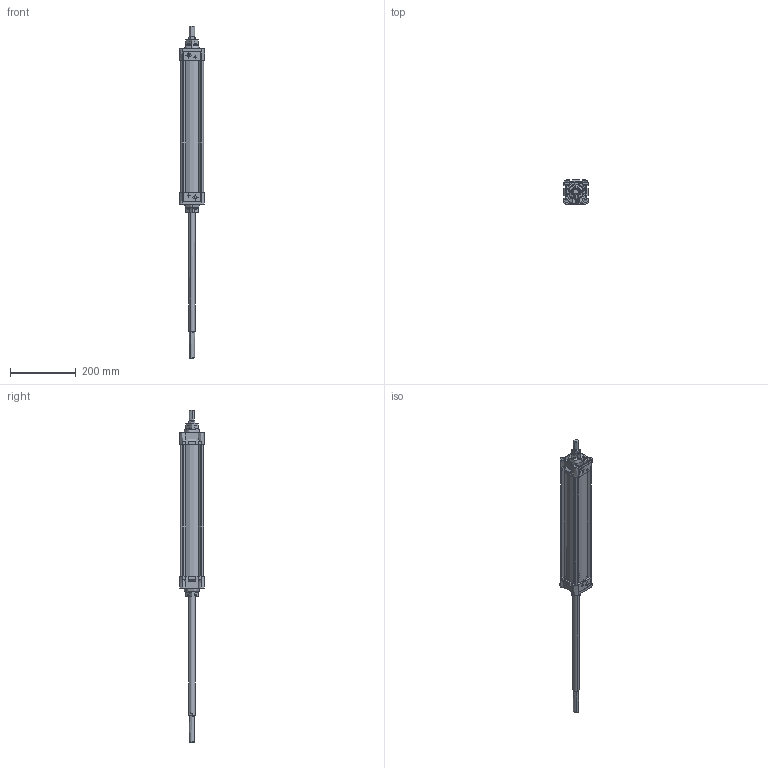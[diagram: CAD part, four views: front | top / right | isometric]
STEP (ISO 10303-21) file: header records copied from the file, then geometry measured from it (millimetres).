
FILE_DESCRIPTION (( 'STEP AP203' ), '1' );
FILE_NAME ('MDNC63X350CIFTMILLI-STROK AYARLI-CYLINDER.STEP', '2015-03-26T11:42:55', ( 'user' ), ( '' ), 'SwSTEP 2.0', 'SolidWorks 2013', '' );
FILE_SCHEMA (( 'CONFIG_CONTROL_DESIGN' ));
Length unit declared in the file: millimetre
Products named in the file (6): 烰 KAPAK  63; MDNC 63X350 BORU; ORTA PÝSTON 63 ÇÝFT MÝLLÝ; Piston Mili 63x350; SAPLAMALI M尳 STROK AYARLI 63x350; MDNC63X350CIFTMILLI-STROK AYARLI-CYLINDER
Assembly tree (6 placements, depth 2):
  MDNC63X350CIFTMILLI-STROK AYARLI-CYLINDER
    烰 KAPAK  63  x2
    MDNC 63X350 BORU
    ORTA PÝSTON 63 ÇÝFT MÝLLÝ
    Piston Mili 63x350
    SAPLAMALI M尳 STROK AYARLI 63x350
Bounding box: 76.04 x 75.84 x 1007.1 mm (x, y, z)
Topology: 8 solids, 10 shells, 858 faces, 2260 edges, 1468 vertices
Faces by surface type: cylinder 417, plane 270, cone 93, bspline 78
Entity records: 22798 total; most frequent: CARTESIAN_POINT 9671, ORIENTED_EDGE 2788, DIRECTION 2329, EDGE_CURVE 1394, VERTEX_POINT 908, AXIS2_PLACEMENT_3D 896, EDGE_LOOP 614, ADVANCED_FACE 539
